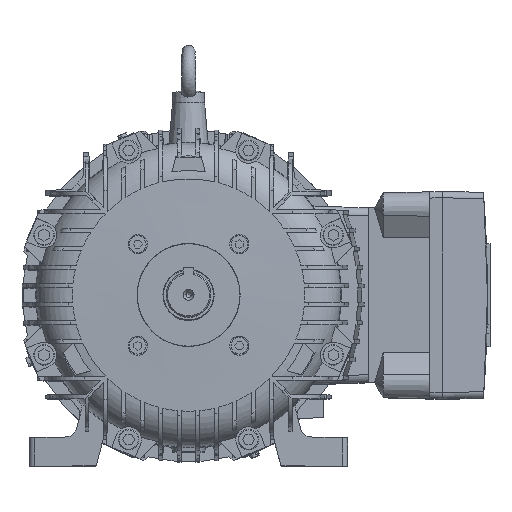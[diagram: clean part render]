
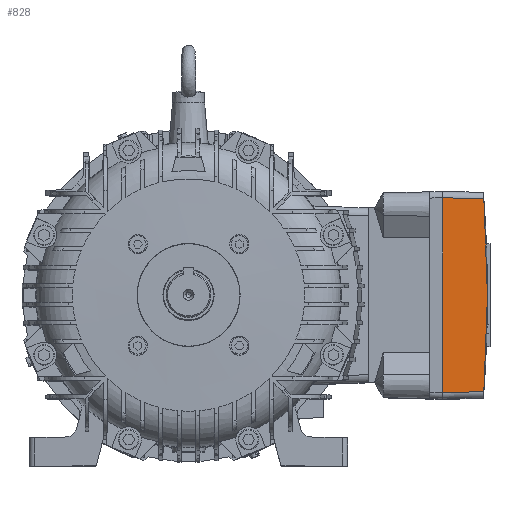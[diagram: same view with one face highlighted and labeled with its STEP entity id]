
A CAD part, top view. The second image highlights one B-rep face of the part: STEP entity #828.
In plain terms, the highlighted planar face has unit normal (0.026, 0, 1).
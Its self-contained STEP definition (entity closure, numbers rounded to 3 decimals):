
#806 = ORIENTED_EDGE ( 'NONE', *, *, #42496, .T. ) ;
#828 = ADVANCED_FACE ( 'NONE', ( #76184 ), #54737, .T. ) ;
#3569 = DIRECTION ( 'NONE',  ( 0., -1., 0. ) ) ;
#8227 = LINE ( 'NONE', #45997, #62528 ) ;
#13772 = CARTESIAN_POINT ( 'NONE',  ( 230.2, -75.159, 65.157 ) ) ;
#14371 = CARTESIAN_POINT ( 'NONE',  ( 230.2, 75.159, 65.157 ) ) ;
#14682 = ORIENTED_EDGE ( 'NONE', *, *, #25876, .T. ) ;
#16191 = CARTESIAN_POINT ( 'NONE',  ( 198., 76.002, 66. ) ) ;
#16483 = ORIENTED_EDGE ( 'NONE', *, *, #36665, .T. ) ;
#16593 = VERTEX_POINT ( 'NONE', #16191 ) ;
#19446 = DIRECTION ( 'NONE',  ( 1., 0., -0.026 ) ) ;
#24237 = CARTESIAN_POINT ( 'NONE',  ( 198., -76.002, 66. ) ) ;
#24635 = VERTEX_POINT ( 'NONE', #24237 ) ;
#25876 = EDGE_CURVE ( 'NONE', #24635, #63922, #25962, .T. ) ;
#25962 = LINE ( 'NONE', #77837, #44816 ) ;
#26590 = CARTESIAN_POINT ( 'NONE',  ( 202.106, 75.894, 65.892 ) ) ;
#36665 = EDGE_CURVE ( 'NONE', #16593, #24635, #8227, .T. ) ;
#42496 = EDGE_CURVE ( 'NONE', #63922, #50314, #62225, .T. ) ;
#44816 = VECTOR ( 'NONE', #63879, 1000. ) ;
#45997 = CARTESIAN_POINT ( 'NONE',  ( 198., -81., 66. ) ) ;
#46094 = EDGE_LOOP ( 'NONE', ( #14682, #806, #87627, #16483 ) ) ;
#47186 = AXIS2_PLACEMENT_3D ( 'NONE', #82930, #61875, #19446 ) ;
#50314 = VERTEX_POINT ( 'NONE', #14371 ) ;
#51998 = CARTESIAN_POINT ( 'NONE',  ( 230.2, -75.159, 65.157 ) ) ;
#54737 = PLANE ( 'NONE',  #47186 ) ;
#55042 = DIRECTION ( 'NONE',  ( -0.999, 0.026, 0.026 ) ) ;
#61875 = DIRECTION ( 'NONE',  ( 0.026, 0., 1. ) ) ;
#62225 =( BOUNDED_CURVE ( )  B_SPLINE_CURVE ( 3, ( #13772, #84417, #91505, #63352 ),
 .UNSPECIFIED., .F., .F. ) 
 B_SPLINE_CURVE_WITH_KNOTS ( ( 4, 4 ),
 ( 3.067, 3.216 ),
 .UNSPECIFIED. ) 
 CURVE ( )  GEOMETRIC_REPRESENTATION_ITEM ( )  RATIONAL_B_SPLINE_CURVE ( ( 1., 0.998, 0.998, 1. ) ) 
 REPRESENTATION_ITEM ( '' )  );
#62528 = VECTOR ( 'NONE', #3569, 1000. ) ;
#63352 = CARTESIAN_POINT ( 'NONE',  ( 230.2, 75.159, 65.157 ) ) ;
#63879 = DIRECTION ( 'NONE',  ( 0.999, 0.026, -0.026 ) ) ;
#63922 = VERTEX_POINT ( 'NONE', #51998 ) ;
#66570 = EDGE_CURVE ( 'NONE', #50314, #16593, #70037, .T. ) ;
#70037 = LINE ( 'NONE', #26590, #86660 ) ;
#76184 = FACE_OUTER_BOUND ( 'NONE', #46094, .T. ) ;
#77837 = CARTESIAN_POINT ( 'NONE',  ( 197.869, -76.005, 66.003 ) ) ;
#82930 = CARTESIAN_POINT ( 'NONE',  ( 198., -81., 66. ) ) ;
#84417 = CARTESIAN_POINT ( 'NONE',  ( 233.935, -25.099, 65.059 ) ) ;
#86660 = VECTOR ( 'NONE', #55042, 1000. ) ;
#87627 = ORIENTED_EDGE ( 'NONE', *, *, #66570, .T. ) ;
#91505 = CARTESIAN_POINT ( 'NONE',  ( 233.935, 25.099, 65.059 ) ) ;
